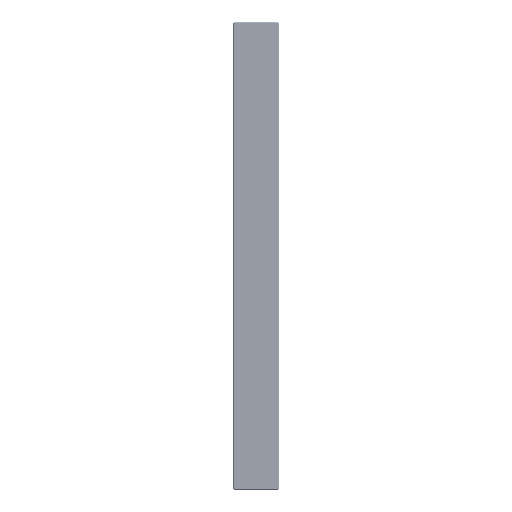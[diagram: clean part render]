
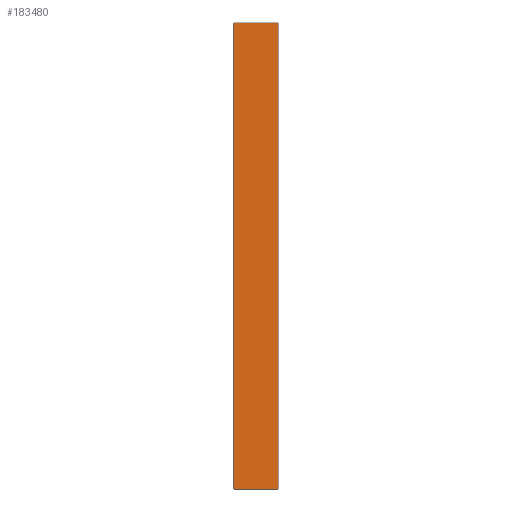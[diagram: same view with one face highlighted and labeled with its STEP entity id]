
A CAD part, front view. The second image highlights one B-rep face of the part: STEP entity #183480.
In plain terms, the highlighted planar face has unit normal (0, -1, 0).
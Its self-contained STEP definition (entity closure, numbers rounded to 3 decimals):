
#74561=DIRECTION('',(0.,0.,-1.));
#74562=VECTOR('',#74561,99.4);
#74563=CARTESIAN_POINT('',(9.7,-200.,49.7));
#74564=LINE('',#74563,#74562);
#74565=DIRECTION('',(-1.,0.,0.));
#74566=VECTOR('',#74565,9.4);
#74567=CARTESIAN_POINT('',(9.7,-200.,-49.7));
#74568=LINE('',#74567,#74566);
#74569=DIRECTION('',(0.,0.,1.));
#74570=VECTOR('',#74569,99.4);
#74571=CARTESIAN_POINT('',(0.3,-200.,-49.7));
#74572=LINE('',#74571,#74570);
#74573=DIRECTION('',(-1.,0.,0.));
#74574=VECTOR('',#74573,9.4);
#74575=CARTESIAN_POINT('',(9.7,-200.,49.7));
#74576=LINE('',#74575,#74574);
#80407=CARTESIAN_POINT('',(9.7,-200.,49.7));
#80408=CARTESIAN_POINT('',(9.7,-200.,-49.7));
#80409=VERTEX_POINT('',#80407);
#80410=VERTEX_POINT('',#80408);
#80417=CARTESIAN_POINT('',(0.3,-200.,-49.7));
#80418=VERTEX_POINT('',#80417);
#80425=CARTESIAN_POINT('',(0.3,-200.,49.7));
#80426=VERTEX_POINT('',#80425);
#183468=CARTESIAN_POINT('',(0.,-200.,50.));
#183469=DIRECTION('',(0.,-1.,0.));
#183470=DIRECTION('',(0.,0.,-1.));
#183471=AXIS2_PLACEMENT_3D('',#183468,#183469,#183470);
#183472=PLANE('',#183471);
#183474=ORIENTED_EDGE('',*,*,#183473,.T.);
#183475=ORIENTED_EDGE('',*,*,#183426,.T.);
#183476=ORIENTED_EDGE('',*,*,#183444,.T.);
#183477=ORIENTED_EDGE('',*,*,#183456,.F.);
#183478=EDGE_LOOP('',(#183474,#183475,#183476,#183477));
#183479=FACE_OUTER_BOUND('',#183478,.F.);
#183480=ADVANCED_FACE('',(#183479),#183472,.T.);
#183426=EDGE_CURVE('',#80410,#80418,#74568,.T.);
#183444=EDGE_CURVE('',#80418,#80426,#74572,.T.);
#183456=EDGE_CURVE('',#80409,#80426,#74576,.T.);
#183473=EDGE_CURVE('',#80409,#80410,#74564,.T.);
